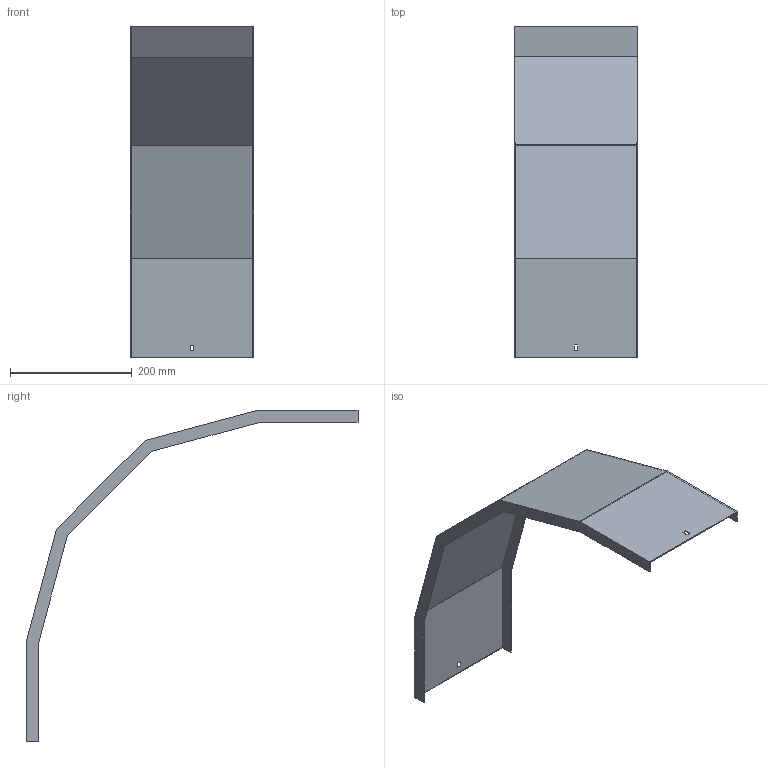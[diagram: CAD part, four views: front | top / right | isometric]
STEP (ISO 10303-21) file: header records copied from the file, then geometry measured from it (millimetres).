
FILE_DESCRIPTION (( 'STEP AP214' ), '1' );
FILE_NAME ('A2_33N3C200.step', '2025-02-21T10:44:20', ( '' ), ( '' ), 'SwSTEP 2.0', 'SolidWorks 2023', '' );
FILE_SCHEMA (( 'AUTOMOTIVE_DESIGN' ));
Length unit declared in the file: millimetre
Products named in the file (1): A2_33N3C200
Bounding box: 203 x 544.46 x 544.46 mm (x, y, z)
Volume: 328614.3 mm3; surface area: 441624.1 mm2
Topology: 1 solids, 1 shells, 34 faces, 96 edges, 64 vertices
Faces by surface type: plane 34
Entity records: 1111 total; most frequent: CARTESIAN_POINT 195, ORIENTED_EDGE 192, DIRECTION 166, VECTOR 96, LINE 96, EDGE_CURVE 96, VERTEX_POINT 64, EDGE_LOOP 38
